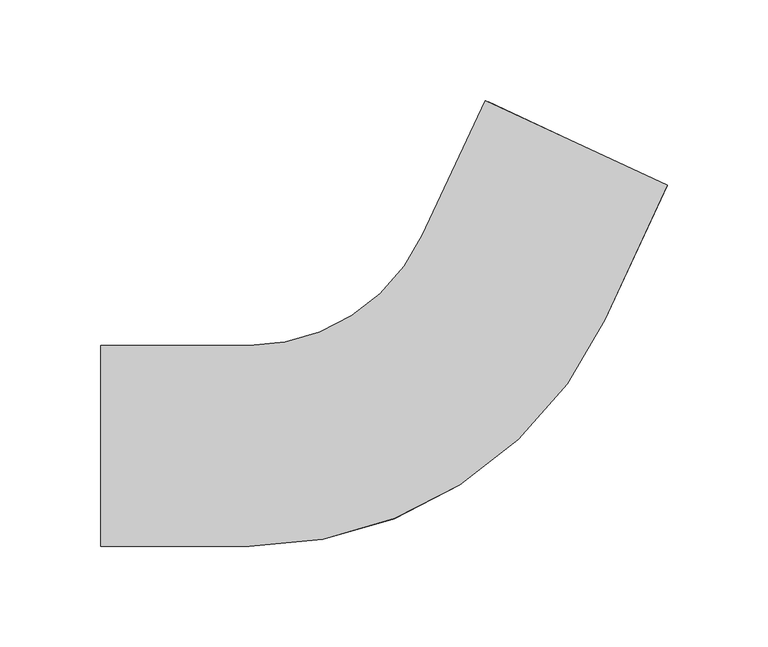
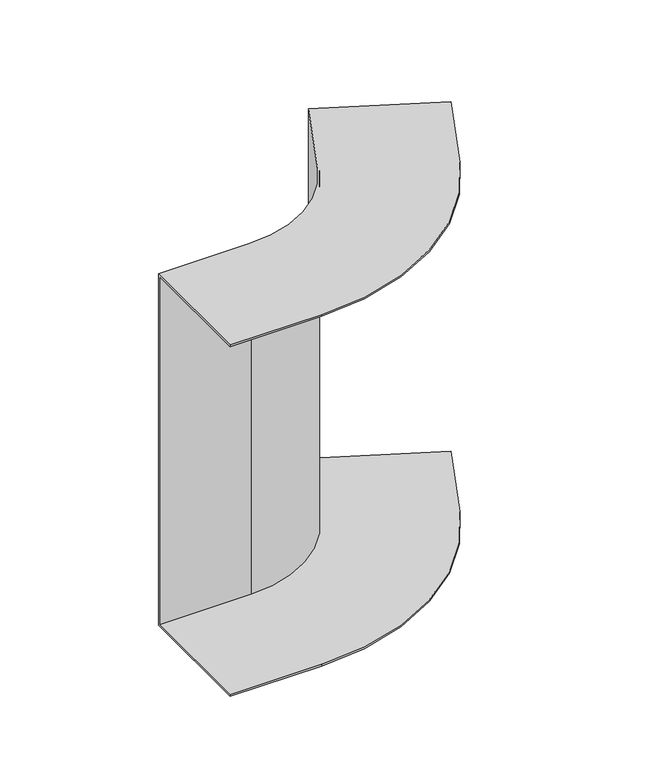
"""IFC4 building model written with IfcOpenShell, lengths in millimetres: cable carrier fitting geometry, BAKS_KK_Vertical bend INTERNAL_LU : LUMNP_H100."""

from ifc_helpers import new_model, si_unit, frame, origin, place, context, project, spatial, polyline, circle_curve, source, transform, mapped, element, save
from ifc_brep_helpers import plane_surface, cylinder_surface, revolved_surface, advanced_brep


def cable_carrier_fitting_8394cd73(model_context):
    return source(origin(), model_context, "Body", "AdvancedBrep", [
        advanced_brep(
        [(-166.3751878, -50.0, 150.0), (-166.3751878, 50.0, 150.0), (-166.3751878, 50.0, -150.0), (-166.3751878, -50.0, -150.0), (-166.3751878, -50.0, -148.5), (-166.3751878, 48.5, -148.5), (-166.3751878, 48.5, 148.5), (-166.3751878, -50.0, 148.5), (115.628582, 129.6562152, 150.0), (115.628582, 129.6562152, 148.5), (26.357265, 171.284114, 148.5), (26.357265, 171.284114, -148.5), (115.628582, 129.6562152, -148.5), (115.628582, 129.6562152, -150.0), (24.9978033, 171.9180414, -150.0), (24.9978033, 171.9180414, 150.0), (-92.3751878, -50.0, 150.0), (84.3548307, 62.589439, 150.0), (-6.275948, 104.8512651, 150.0), (-92.3751878, 50.0, 150.0), (-92.3751878, 50.0, -150.0), (-6.275948, 104.8512651, -150.0), (84.3548307, 62.589439, -150.0), (-92.3751878, -50.0, -150.0), (-92.3751878, -50.0, -148.5), (84.3548307, 62.589439, -148.5), (-4.9164864, 104.2173377, -148.5), (-92.3751878, 48.5, -148.5), (-92.3751878, 48.5, 148.5), (-4.9164864, 104.2173377, 148.5), (84.3548307, 62.589439, 148.5), (-92.3751878, -50.0, 148.5)],
        [
            (0, 1),
            (1, 2),
            (2, 3),
            (3, 4),
            (4, 5),
            (5, 6),
            (6, 7),
            (7, 0),
            (8, 9),
            (9, 10),
            (10, 11),
            (11, 12),
            (12, 13),
            (13, 14),
            (14, 15),
            (15, 8),
            (0, 16),
            (16, 17, circle_curve(frame((-92.3751878, 145.0, 150.0), z_axis=(0.0, 0.0, 1.0), x_axis=(0.0, -1.0, 0.0)), 195.0)),
            (17, 8),
            (15, 18),
            (18, 19, circle_curve(frame((-92.3751878, 145.0, 150.0), z_axis=(0.0, 0.0, -1.0), x_axis=(0.0, -1.0, 0.0)), 95.0)),
            (19, 1),
            (19, 20),
            (20, 2),
            (20, 21, circle_curve(frame((-92.3751878, 145.0, -150.0), z_axis=(0.0, 0.0, 1.0), x_axis=(0.0, -1.0, 0.0)), 95.0)),
            (21, 14),
            (13, 22),
            (22, 23, circle_curve(frame((-92.3751878, 145.0, -150.0), z_axis=(0.0, 0.0, -1.0), x_axis=(0.0, -1.0, 0.0)), 195.0)),
            (23, 3),
            (23, 24),
            (24, 4),
            (24, 25, circle_curve(frame((-92.3751878, 145.0, -148.5), z_axis=(0.0, 0.0, 1.0), x_axis=(0.0, -1.0, 0.0)), 195.0)),
            (25, 12),
            (11, 26),
            (26, 27, circle_curve(frame((-92.3751878, 145.0, -148.5), z_axis=(0.0, 0.0, -1.0), x_axis=(0.0, -1.0, 0.0)), 96.5)),
            (27, 5),
            (27, 28),
            (28, 6),
            (28, 29, circle_curve(frame((-92.3751878, 145.0, 148.5), z_axis=(0.0, 0.0, 1.0), x_axis=(0.0, -1.0, 0.0)), 96.5)),
            (29, 10),
            (9, 30),
            (30, 31, circle_curve(frame((-92.3751878, 145.0, 148.5), z_axis=(0.0, 0.0, -1.0), x_axis=(0.0, -1.0, 0.0)), 195.0)),
            (31, 7),
            (31, 16),
            (18, 21),
            (22, 25),
            (26, 29),
            (30, 17),
        ],
        [
            plane_surface(frame((-166.3751878, 0.0, 0.0), z_axis=(-1.0, 0.0, 0.0), x_axis=(0.0, 0.0, 1.0))),
            plane_surface(frame((70.3131927, 150.7871283, 0.0), z_axis=(0.4226182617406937, 0.9063077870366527, 0.0), x_axis=(0.0, 0.0, 1.0))),
            plane_surface(frame((-166.3751878, -50.0, 150.0), z_axis=(0.0, 0.0, 1.0), x_axis=(1.0, 0.0, 0.0))),
            plane_surface(frame((-166.3751878, 50.0, 150.0), z_axis=(0.0, 1.0, 0.0), x_axis=(1.0, 0.0, 0.0))),
            plane_surface(frame((-166.3751878, 50.0, -150.0), z_axis=(0.0, 0.0, -1.0), x_axis=(1.0, 0.0, 0.0))),
            plane_surface(frame((-166.3751878, -50.0, -150.0), z_axis=(0.0, -1.0, 0.0), x_axis=(1.0, 0.0, 0.0))),
            plane_surface(frame((-166.3751878, -50.0, -148.5), z_axis=(0.0, 0.0, 1.0), x_axis=(1.0, 0.0, 0.0))),
            plane_surface(frame((-166.3751878, 48.5, -148.5), z_axis=(0.0, -1.0, 0.0), x_axis=(1.0, 0.0, 0.0))),
            plane_surface(frame((-166.3751878, 48.5, 148.5), z_axis=(0.0, 0.0, -1.0), x_axis=(1.0, 0.0, 0.0))),
            plane_surface(frame((-166.3751878, -50.0, 148.5), z_axis=(0.0, -1.0, 0.0), x_axis=(1.0, 0.0, 0.0))),
            revolved_surface(polyline([(-92.3751878, 50.0, 150.0), (-92.3751878, 50.0, -150.0)]), (-92.3751878, 145.0, 0.0), (0.0, 0.0, 1.0)),
            cylinder_surface(frame((-92.3751878, 145.0, 0.0), z_axis=(0.0, 0.0, 1.0), x_axis=(0.0, -1.0, 0.0)), 195.0),
            cylinder_surface(frame((-92.3751878, 145.0, 0.0), z_axis=(0.0, 0.0, 1.0), x_axis=(0.0, -1.0, 0.0)), 96.5),
            plane_surface(frame((-6.275948, 104.8512651, 150.0), z_axis=(-0.9063077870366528, 0.42261826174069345, 0.0), x_axis=(0.42261826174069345, 0.9063077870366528, 0.0))),
            plane_surface(frame((84.3548307, 62.589439, -150.0), z_axis=(0.9063077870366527, -0.42261826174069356, 0.0), x_axis=(0.42261826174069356, 0.9063077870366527, 0.0))),
            plane_surface(frame((-4.9164864, 104.2173377, -148.5), z_axis=(0.9063077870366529, -0.42261826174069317, 0.0), x_axis=(0.42261826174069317, 0.9063077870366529, 0.0))),
            plane_surface(frame((84.3548307, 62.589439, 148.5), z_axis=(0.9063077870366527, -0.42261826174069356, 0.0), x_axis=(0.42261826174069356, 0.9063077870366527, 0.0))),
        ],
        [
            (0, [[1, 2, 3, 4, 5, 6, 7, 8]]),
            (1, [[9, 10, 11, 12, 13, 14, 15, 16]]),
            (2, [[-1, 17, 18, 19, -16, 20, 21, 22]]),
            (3, [[-2, -22, 23, 24]]),
            (4, [[-3, -24, 25, 26, -14, 27, 28, 29]]),
            (5, [[-4, -29, 30, 31]]),
            (6, [[-5, -31, 32, 33, -12, 34, 35, 36]]),
            (7, [[-6, -36, 37, 38]]),
            (8, [[-7, -38, 39, 40, -10, 41, 42, 43]]),
            (9, [[-8, -43, 44, -17]]),
            (10, [[-25, -23, -21, 45]]),
            (11, [[-32, -30, -28, 46]]),
            (12, [[-39, -37, -35, 47]]),
            (11, [[-18, -44, -42, 48]]),
            (13, [[-45, -20, -15, -26]]),
            (14, [[-46, -27, -13, -33]]),
            (15, [[-47, -34, -11, -40]]),
            (16, [[-48, -41, -9, -19]]),
        ],
    ),
    ])


if __name__ == "__main__":
    model = new_model("IFC4")
    model_context = context("Model", 3, world=origin())
    ifc_project = project(units=[si_unit("LENGTHUNIT", "METRE", prefix="MILLI")], contexts=[model_context])
    site = spatial("IfcSite", under=ifc_project)
    building = spatial("IfcBuilding", under=site)
    placement = place(None, origin())
    cable_carrier_fitting_shape = cable_carrier_fitting_8394cd73(model_context)
    element("IfcCableCarrierFitting", 1, ObjectType="BAKS_KK_Vertical bend INTERNAL_LU : LUMNP_H100", at=placement, inside=building, context=model_context, shape_type="MappedRepresentation", body=[
        mapped(cable_carrier_fitting_shape, transform((0.0, 0.0, 0.0), x_axis=(1.0, 0.0, 0.0), y_axis=(0.0, 1.0, 0.0), z_axis=(0.0, 0.0, 1.0))),
    ])
    save(model, "model.ifc")
